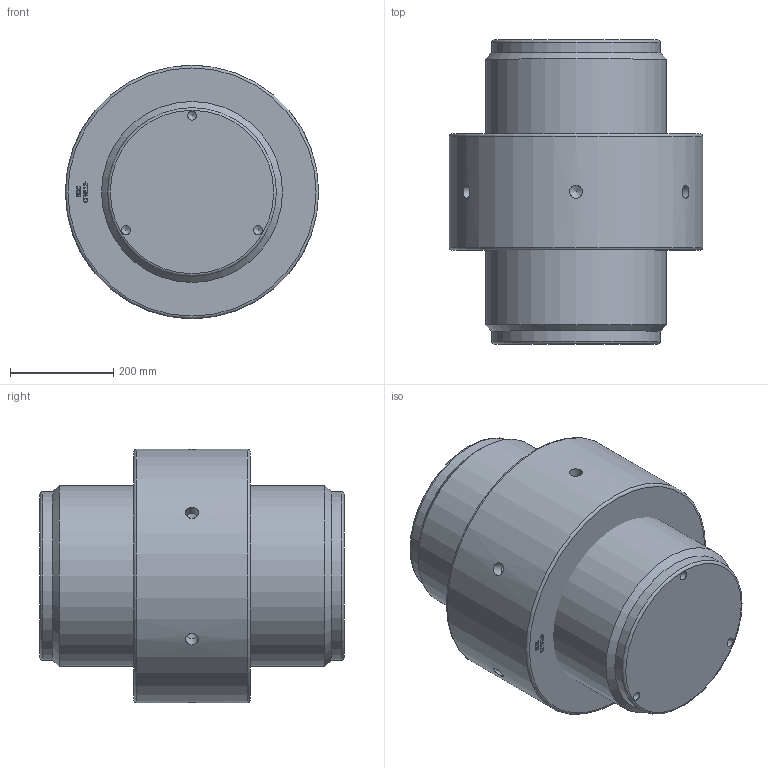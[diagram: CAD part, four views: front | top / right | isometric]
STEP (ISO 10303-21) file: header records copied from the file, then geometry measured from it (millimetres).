
FILE_DESCRIPTION(/* description */ (''),/* implementation_level */ '2;1');
FILE_NAME(/* name */ 'F:\Clienti LS\Redaelli\CYT\CYT\ARRNGEMENT\CYT112 61 061 0.stp',/* time_stamp */ '2021-05-09T08:55:08+02:00',/* author */ ('ranca'),/* organization */ (''),/* preprocessor_version */ 'ST-DEVELOPER v16.13',/* originating_system */ 'Autodesk Inventor 2018',/* authorisation */ '');
FILE_SCHEMA (('AUTOMOTIVE_DESIGN { 1 0 10303 214 3 1 1 }'));
Length unit declared in the file: millimetre
Products named in the file (3): CYT012-61-061-0; CYT012-61-061-0_1; CYT012-61-061-0_DADO
Assembly tree (2 placements, depth 2):
  CYT012-61-061-0
    CYT012-61-061-0_1
    CYT012-61-061-0_DADO
Bounding box: 490 x 588 x 490 mm (x, y, z)
Volume: 77209825.1 mm3; surface area: 1610594.9 mm2
Topology: 2 solids, 2 shells, 330 faces, 908 edges, 604 vertices
Faces by surface type: plane 151, bspline 150, cylinder 14, cone 11, torus 4
Full cylindrical faces by diameter (mm): 17.294 x3, 25 x6, 326 x2, 343.505 x1, 350 x1, 490 x1
Entity records: 11190 total; most frequent: CARTESIAN_POINT 3946, ORIENTED_EDGE 1726, DIRECTION 947, EDGE_CURVE 863, VERTEX_POINT 588, LINE 525, VECTOR 525, EDGE_LOOP 383
